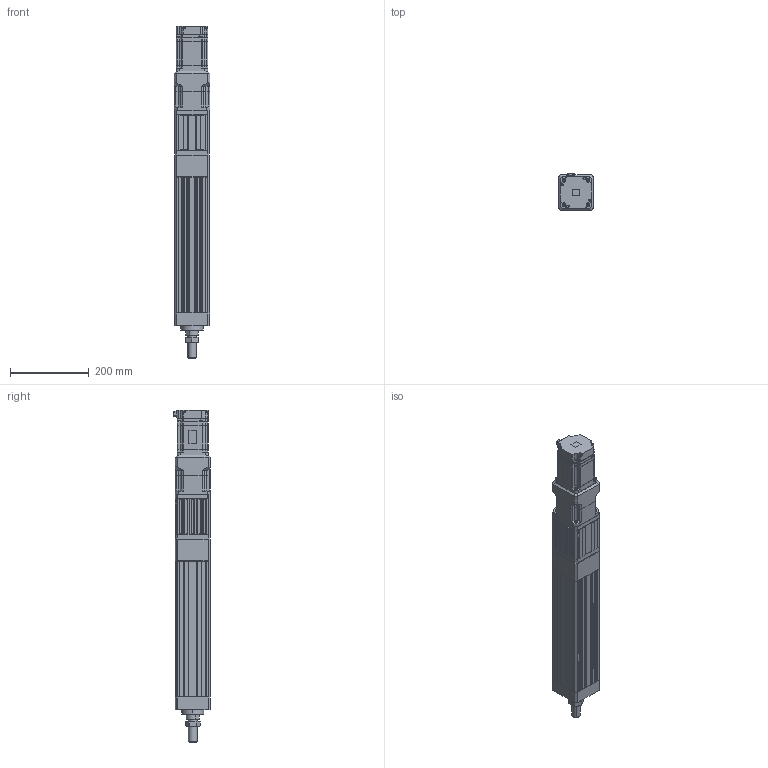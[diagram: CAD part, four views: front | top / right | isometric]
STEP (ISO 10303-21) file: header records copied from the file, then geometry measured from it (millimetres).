
FILE_DESCRIPTION (( 'STEP AP203' ), '1' );
FILE_NAME ('ANS090H-S200-05(10)(25)-W75G05-M.STEP', '2019-03-18T00:49:24', ( 'user' ), ( '' ), 'SwSTEP 2.0', 'SolidWorks 2013', '' );
FILE_SCHEMA (( 'CONFIG_CONTROL_DESIGN' ));
Length unit declared in the file: millimetre
Products named in the file (6): SGMJV_08A_A21; AB090-005-S1-P2[YASKAWA SGMJV08A]; ANS090H-S200-05(10)(25)-W75G05-M; ANS090H S200 VER2; HEXNUT-M22X1.5P; ANS090 ROD ST200-M
Assembly tree (5 placements, depth 2):
  ANS090H-S200-05(10)(25)-W75G05-M
    ANS090H S200 VER2
    HEXNUT-M22X1.5P
    ANS090 ROD ST200-M
    SGMJV_08A_A21
    AB090-005-S1-P2[YASKAWA SGMJV08A]
Bounding box: 90 x 93.8 x 844.1 mm (x, y, z)
Volume: 3121447.8 mm3; surface area: 578033.1 mm2
Topology: 4 solids, 11 shells, 1615 faces, 4344 edges, 2802 vertices
Faces by surface type: plane 986, cylinder 481, cone 136, bspline 12
Entity records: 51143 total; most frequent: CARTESIAN_POINT 9819, ORIENTED_EDGE 8552, DIRECTION 8387, EDGE_CURVE 4320, VECTOR 3095, LINE 3095, VERTEX_POINT 2802, AXIS2_PLACEMENT_3D 2646
